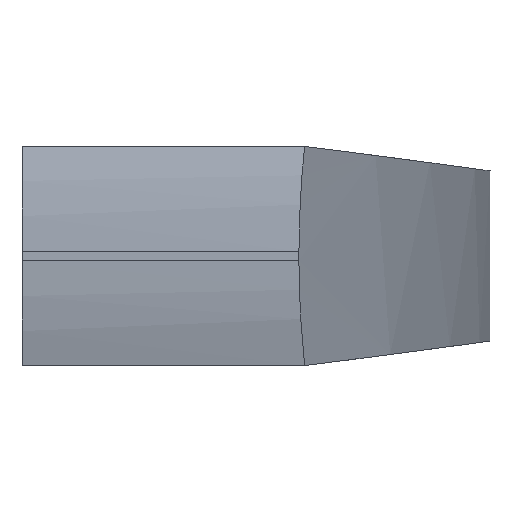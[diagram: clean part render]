
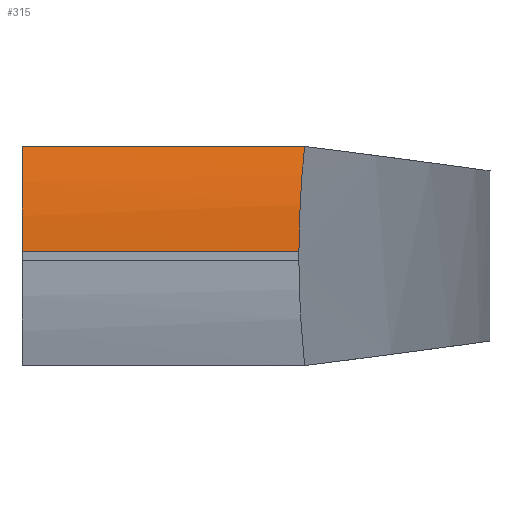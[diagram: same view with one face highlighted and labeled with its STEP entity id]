
A CAD part, left-side view. The second image highlights one B-rep face of the part: STEP entity #315.
In plain terms, the highlighted cylindrical face has radius 24.875 mm (diameter 49.75 mm), a partial arc.
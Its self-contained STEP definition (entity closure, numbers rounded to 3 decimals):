
#231 = EDGE_CURVE( '', #483, #333, #588, .T. );
#273 = VERTEX_POINT( '', #633 );
#315 = ADVANCED_FACE( '', ( #679 ), #680, .T. );
#317 = EDGE_CURVE( '', #333, #381, #682, .T. );
#333 = VERTEX_POINT( '', #699 );
#381 = VERTEX_POINT( '', #756 );
#445 = EDGE_CURVE( '', #381, #273, #825, .T. );
#483 = VERTEX_POINT( '', #864 );
#511 = EDGE_CURVE( '', #483, #273, #894, .T. );
#588 = LINE( '', #1052, #1053 );
#633 = CARTESIAN_POINT( '', ( -9.152, 0., 6.439 ) );
#679 = FACE_OUTER_BOUND( '', #1235, .T. );
#680 = CYLINDRICAL_SURFACE( '', #1236, 24.875 );
#682 = B_SPLINE_CURVE_WITH_KNOTS( '', 3, ( #1239, #1240, #1241, #1242, #1243, #1244, #1245, #1246 ), .UNSPECIFIED., .F., .F., ( 4, 2, 2, 4 ), ( 23.461, 26.093, 28.992, 30.332 ), .UNSPECIFIED. );
#699 = CARTESIAN_POINT( '', ( -9.999, -16.269, 0.268 ) );
#756 = CARTESIAN_POINT( '', ( -9.152, -16.607, 6.439 ) );
#825 = LINE( '', #1505, #1506 );
#864 = CARTESIAN_POINT( '', ( -9.999, 0., 0.268 ) );
#894 = CIRCLE( '', #1654, 24.875 );
#1052 = CARTESIAN_POINT( '', ( -9.999, -8.135, 0.268 ) );
#1053 = VECTOR( '', #1760, 1. );
#1235 = EDGE_LOOP( '', ( #1871, #1872, #1873, #1874 ) );
#1236 = AXIS2_PLACEMENT_3D( '', #1875, #1876, #1877 );
#1239 = CARTESIAN_POINT( '', ( -9.999, -16.269, 0.268 ) );
#1240 = CARTESIAN_POINT( '', ( -9.989, -16.273, 1.147 ) );
#1241 = CARTESIAN_POINT( '', ( -9.933, -16.296, 2.033 ) );
#1242 = CARTESIAN_POINT( '', ( -9.713, -16.384, 3.894 ) );
#1243 = CARTESIAN_POINT( '', ( -9.539, -16.453, 4.869 ) );
#1244 = CARTESIAN_POINT( '', ( -9.199, -16.588, 6.279 ) );
#1245 = CARTESIAN_POINT( '', ( -9.079, -16.636, 6.722 ) );
#1246 = CARTESIAN_POINT( '', ( -8.947, -16.688, 7.162 ) );
#1505 = CARTESIAN_POINT( '', ( -9.152, 0., 6.439 ) );
#1506 = VECTOR( '', #2047, 1. );
#1654 = AXIS2_PLACEMENT_3D( '', #2088, #2089, #2090 );
#1760 = DIRECTION( '', ( 0., -1., 0. ) );
#1871 = ORIENTED_EDGE( '', *, *, #445, .T. );
#1872 = ORIENTED_EDGE( '', *, *, #511, .F. );
#1873 = ORIENTED_EDGE( '', *, *, #231, .T. );
#1874 = ORIENTED_EDGE( '', *, *, #317, .T. );
#1875 = CARTESIAN_POINT( '', ( 14.875, 0., 0. ) );
#1876 = DIRECTION( '', ( 0., 1., 0. ) );
#1877 = DIRECTION( '', ( -0.956, 0., -0.293 ) );
#2047 = DIRECTION( '', ( 0., 1., 0. ) );
#2088 = CARTESIAN_POINT( '', ( 14.875, 0., 0. ) );
#2089 = DIRECTION( '', ( 0., 1., 0. ) );
#2090 = DIRECTION( '', ( -0.956, 0., -0.293 ) );
